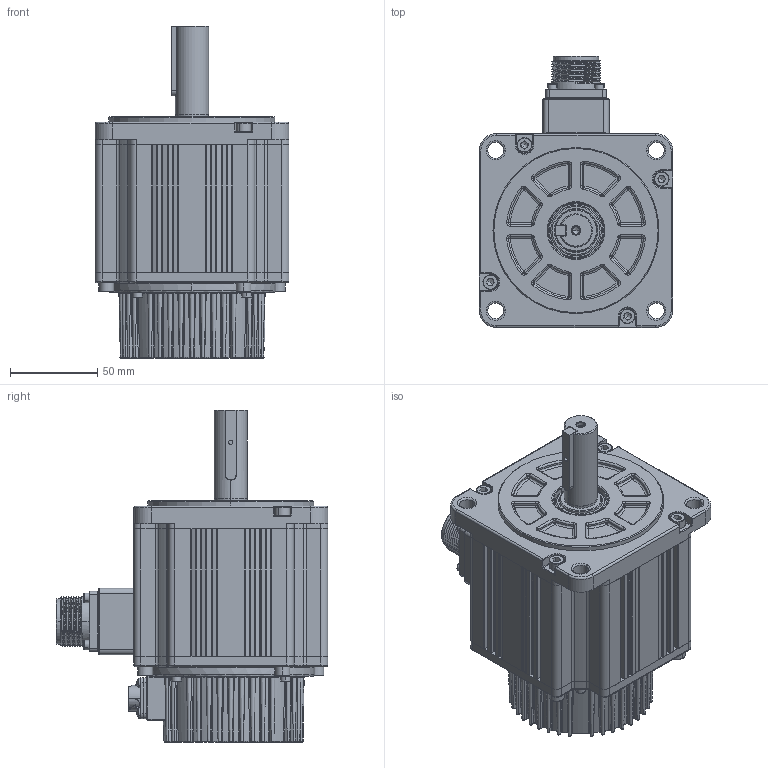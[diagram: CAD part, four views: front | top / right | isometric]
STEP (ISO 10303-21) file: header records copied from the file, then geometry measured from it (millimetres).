
FILE_DESCRIPTION (( 'STEP AP214' ), '1' );
FILE_NAME ('73酗儂褲 拸价陬.STEP', '2021-08-10T10:48:27', ( '' ), ( '' ), 'SwSTEP 2.0', 'SolidWorks 2014', '' );
FILE_SCHEMA (( 'AUTOMOTIVE_DESIGN' ));
Length unit declared in the file: millimetre
Products named in the file (16): SC瑤諾脣芛 CMS3102A18-10P-Z; 110#ヶ傷裔; 坋趼羞攫芛蹟隊M3℅8; 110#綴傷裔; 110#隅赽郪璃; 囀鞠褒 ISO 4762 M5 x 18; SC晤鎢ん欶200908_9郋; 普通型 平键   C 6x6x40 带M3起键螺钉孔-1; 110#陔粣-拸价陬; 瑤諾脣芛 SC-CMV1-R10P-1; 囀鞠褒 M3X10; 110#儂褲; 雄薯瑤脣釱200909; 蚐猾 D00B999YF9-TC 25-32-4-110#; 囀鞠褒 M3X30; 73酗儂褲 拸价陬
Assembly tree (31 placements, depth 3):
  73酗儂褲 拸价陬
    110#隅赽郪璃
      110#儂褲
      SC瑤諾脣芛 CMS3102A18-10P-Z
      雄薯瑤脣釱200909
      110#ヶ傷裔
    蚐猾 D00B999YF9-TC 25-32-4-110#
    110#陔粣-拸价陬
    普通型 平键   C 6x6x40 带M3起键螺钉孔-1
    110#綴傷裔
    瑤諾脣芛 SC-CMV1-R10P-1
    SC晤鎢ん欶200908_9郋
    囀鞠褒 M3X30  x4
    囀鞠褒 M3X10  x4
    坋趼羞攫芛蹟隊M3℅8  x4
    囀鞠褒 ISO 4762 M5 x 18  x8
Bounding box: 111 x 155.4 x 190 mm (x, y, z)
Volume: 497584.2 mm3; surface area: 218266.3 mm2
Topology: 31 solids, 31 shells, 2989 faces, 7083 edges, 4085 vertices
Faces by surface type: cylinder 1036, plane 707, torus 497, bspline 297, cone 253, sphere 199
Entity records: 87758 total; most frequent: CARTESIAN_POINT 25719, DIRECTION 12899, ORIENTED_EDGE 11876, EDGE_CURVE 5938, AXIS2_PLACEMENT_3D 5454, VERTEX_POINT 3493, CIRCLE 3098, EDGE_LOOP 2759
